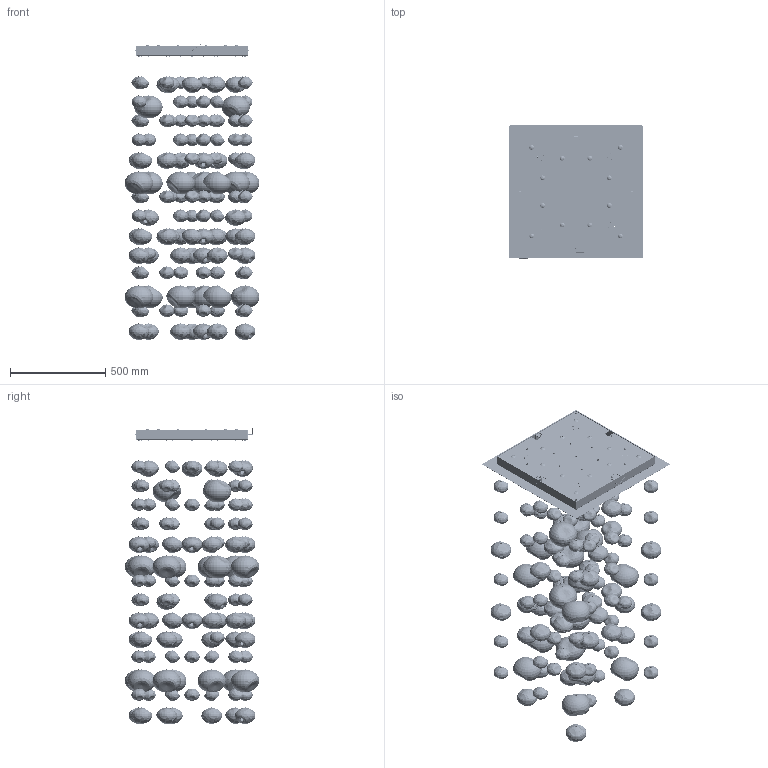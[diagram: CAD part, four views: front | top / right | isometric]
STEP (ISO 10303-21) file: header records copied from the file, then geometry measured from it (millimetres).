
FILE_DESCRIPTION(/* description */ (''),/* implementation_level */ '2;1');
FILE_NAME(/* name */ 'ETHER SQUARE C 150',/* time_stamp */ '2025-09-09T08:55:21+02:00',/* author */ (''),/* organization */ (''),/* preprocessor_version */ 'ST-DEVELOPER v16.5',/* originating_system */ 'Rhino 7.38',/* authorisation */ '');
FILE_SCHEMA (('CONFIG_CONTROL_DESIGN'));
Products named in the file (50): Document; Z0021; DADO M4 DIN934 ZB; RONDELLA DENTELLATA ESTERNA M4; Z0033; Z0008; K011; RONDELLA M4 D.12 H1 ZINCATA DIN9021; VITE TCEI M4X6 UNI5931 ZB; X0072; Z0009; 146C006; VITE TCEI M4X12 UNI5931 ZB; 146C010-G-927; Z0022; C026-927; C005; C008; B005; Vite TSP CR M3x8 zincata; VITE TC AUTOFIL M2,9X9,5 ZN UNI6954AB DIN7981C; K001; R001-36; 146C005; RONDELLA Ø7 H2 F.Ø3.2 STEAB 5021-2-118; VITE AUTOFIL. Ø2.9X6.5 TCC UNI 6954 AB; VITE TCEI M3X25 UNI5931 ZB; E007-0,5A; W037; Z017-P; W042; W044; 146C009; 146C009-1; 146C009-2; X0057-008; 146C003; 146C021-B; 146C016-F; 146C014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
Assembly tree (231 placements, depth 3):
  Document
    Z0021
    DADO M4 DIN934 ZB  x4
    RONDELLA DENTELLATA ESTERNA M4  x4
    Z0033  x4
      Z0008
      K011
    RONDELLA M4 D.12 H1 ZINCATA DIN9021  x4
    VITE TCEI M4X6 UNI5931 ZB  x4
    X0072  x22
    Z0009  x22
    146C006  x22
    VITE TCEI M4X12 UNI5931 ZB  x4
    146C010-G-927  x4
      Z0022
      C026-927
      C005
      C008
      B005
      Vite TSP CR M3x8 zincata
      VITE TC AUTOFIL M2,9X9,5 ZN UNI6954AB DIN7981C
      K001
      R001-36
      146C005
      RONDELLA Ø7 H2 F.Ø3.2 STEAB 5021-2-118
      VITE AUTOFIL. Ø2.9X6.5 TCC UNI 6954 AB
      VITE TCEI M3X25 UNI5931 ZB
      E007-0,5A
      W037
      Z017-P
      W042
      W044
    146C009
      146C009-1
      146C009-2
      X0057-008  x5
    146C003
    146C021-B  x8
      146C016-F
      146C014
      146C013
      SEEGER N.4 ZINCATO minetti
      146C011
    146C021-A  x7
      146C016-E
      146C015
      146C013
      146C014
      SEEGER N.4 ZINCATO minetti
      146C011
    146C021-D  x5
      146C016-H
      146C014
      146C013
      146C011
      SEEGER N.4 ZINCATO minetti
    146C021-E  x2
      146C016-G
      146C015
      146C014
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Bounding box: 708.39 x 708.54 x 1555.56 mm (x, y, z)
Volume: 6710369.1 mm3; surface area: 9688671.9 mm2
Topology: 653 solids, 695 shells, 21418 faces, 55230 edges, 36140 vertices
Faces by surface type: plane 10197, cylinder 6897, bspline 4324
Full cylindrical faces by diameter (mm): 0.65 x5, 0.88 x8, 1 x145, 1.15 x16, 1.25 x4, 1.5 x16, 2 x44, 2.25 x8, 2.3 x16, 2.459 x19, 2.8 x8, 2.9 x28, 3 x168, 3.1 x8, 3.2 x12, 3.242 x12, 3.3 x30, 3.5 x22, 4 x43, 4.3 x12, 4.9 x4, 5 x8, 5.5 x21, 5.6 x8, 5.8 x4, 6 x42, 6.5 x56, 6.6 x8, 7 x30, 8 x44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
Entity records: 367031 total; most frequent: CARTESIAN_POINT 296816, ORIENTED_EDGE 16209, EDGE_CURVE 8106, VERTEX_POINT 5344, B_SPLINE_CURVE_WITH_KNOTS 5094, EDGE_LOOP 3532, DIRECTION 3034, ADVANCED_FACE 3030
